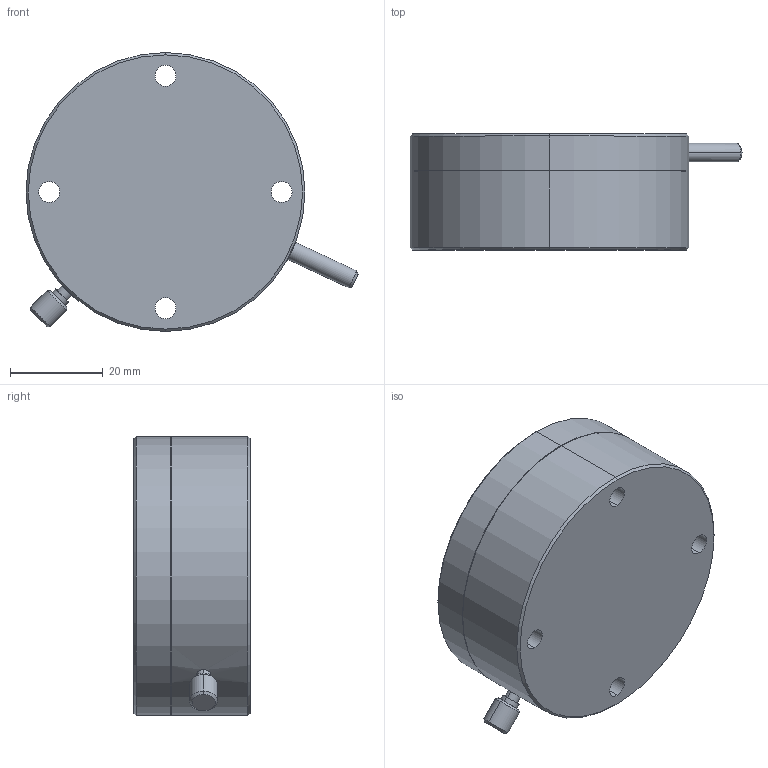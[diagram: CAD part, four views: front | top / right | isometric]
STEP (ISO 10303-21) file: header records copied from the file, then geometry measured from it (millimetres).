
FILE_DESCRIPTION (( 'STEP AP203' ), '1' );
FILE_NAME ('MRE60-A.STEP', '2008-07-15T11:44:54', ( 'user' ), ( '' ), 'SwSTEP 2.0', 'SolidWorks 2007', '' );
FILE_SCHEMA (( 'CONFIG_CONTROL_DESIGN' ));
Length unit declared in the file: millimetre
Products named in the file (1): MRE60-A
Bounding box: 71.42 x 25 x 60 mm (x, y, z)
Volume: 65165.6 mm3; surface area: 14186.1 mm2
Topology: 1 solids, 1 shells, 112 faces, 260 edges, 145 vertices
Faces by surface type: cylinder 60, cone 40, plane 12
Entity records: 3171 total; most frequent: CARTESIAN_POINT 594, DIRECTION 578, ORIENTED_EDGE 460, AXIS2_PLACEMENT_3D 239, EDGE_CURVE 230, EDGE_LOOP 145, VERTEX_POINT 145, CIRCLE 126
